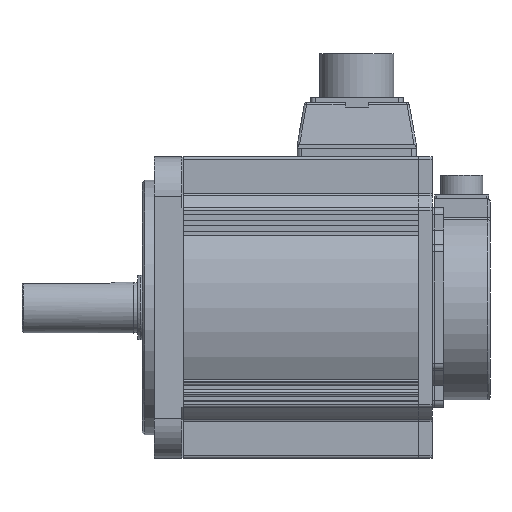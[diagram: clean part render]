
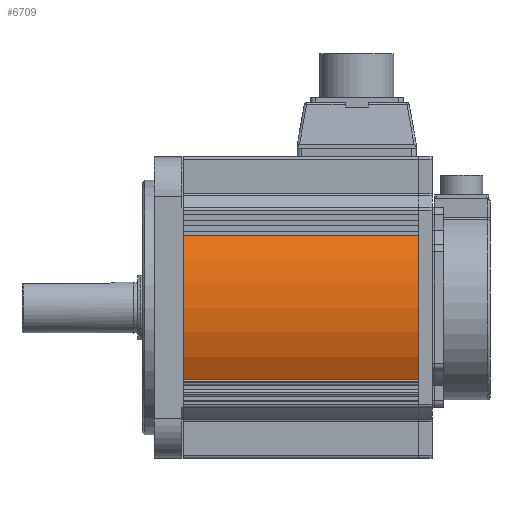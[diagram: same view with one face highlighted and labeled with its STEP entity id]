
A CAD part, front view. The second image highlights one B-rep face of the part: STEP entity #6709.
In plain terms, the highlighted cylindrical face has radius 65 mm (diameter 130 mm), a partial arc.
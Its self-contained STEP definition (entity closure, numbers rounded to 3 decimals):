
#193 = ORIENTED_EDGE ( 'NONE', *, *, #12363, .T. ) ;
#249 = ORIENTED_EDGE ( 'NONE', *, *, #12451, .F. ) ;
#1944 = VERTEX_POINT ( 'NONE', #10634 ) ;
#2827 = AXIS2_PLACEMENT_3D ( 'NONE', #9149, #9118, #9101 ) ;
#3344 = EDGE_LOOP ( 'NONE', ( #193, #249, #6283, #7422 ) ) ;
#4768 = CYLINDRICAL_SURFACE ( 'NONE', #12276, 65. ) ;
#5629 = CARTESIAN_POINT ( 'NONE',  ( 171., -57.131, 31. ) ) ;
#6151 = CIRCLE ( 'NONE', #9878, 65. ) ;
#6283 = ORIENTED_EDGE ( 'NONE', *, *, #12498, .F. ) ;
#6653 = LINE ( 'NONE', #11159, #6977 ) ;
#6709 = ADVANCED_FACE ( 'NONE', ( #10366 ), #4768, .T. ) ;
#6828 = DIRECTION ( 'NONE',  ( 0., 0., -1. ) ) ;
#6840 = DIRECTION ( 'NONE',  ( 1., 0., 0. ) ) ;
#6875 = CARTESIAN_POINT ( 'NONE',  ( 171., 0., 0. ) ) ;
#6977 = VECTOR ( 'NONE', #11168, 1000. ) ;
#6980 = VERTEX_POINT ( 'NONE', #13236 ) ;
#7422 = ORIENTED_EDGE ( 'NONE', *, *, #12241, .T. ) ;
#7802 = CIRCLE ( 'NONE', #2827, 65. ) ;
#7879 = DIRECTION ( 'NONE',  ( -1., 0., 0. ) ) ;
#7895 = CARTESIAN_POINT ( 'NONE',  ( 171., -57.131, -31. ) ) ;
#7964 = VERTEX_POINT ( 'NONE', #5629 ) ;
#8584 = CARTESIAN_POINT ( 'NONE',  ( 171., -57.131, -31. ) ) ;
#8959 = VECTOR ( 'NONE', #7879, 1000. ) ;
#9101 = DIRECTION ( 'NONE',  ( 0., 0., -1. ) ) ;
#9118 = DIRECTION ( 'NONE',  ( 1., 0., 0. ) ) ;
#9149 = CARTESIAN_POINT ( 'NONE',  ( 69.5, 0., 0. ) ) ;
#9162 = VERTEX_POINT ( 'NONE', #8584 ) ;
#9291 = LINE ( 'NONE', #7895, #8959 ) ;
#9878 = AXIS2_PLACEMENT_3D ( 'NONE', #6875, #6840, #6828 ) ;
#9954 = DIRECTION ( 'NONE',  ( -1., 0., 0. ) ) ;
#10261 = DIRECTION ( 'NONE',  ( 0., 0., 1. ) ) ;
#10366 = FACE_OUTER_BOUND ( 'NONE', #3344, .T. ) ;
#10634 = CARTESIAN_POINT ( 'NONE',  ( 69.5, -57.131, 31. ) ) ;
#10746 = CARTESIAN_POINT ( 'NONE',  ( 171., 0., 0. ) ) ;
#11159 = CARTESIAN_POINT ( 'NONE',  ( 171., -57.131, 31. ) ) ;
#11168 = DIRECTION ( 'NONE',  ( -1., 0., 0. ) ) ;
#12241 = EDGE_CURVE ( 'NONE', #7964, #1944, #6653, .T. ) ;
#12276 = AXIS2_PLACEMENT_3D ( 'NONE', #10746, #9954, #10261 ) ;
#12363 = EDGE_CURVE ( 'NONE', #1944, #6980, #7802, .T. ) ;
#12451 = EDGE_CURVE ( 'NONE', #9162, #6980, #9291, .T. ) ;
#12498 = EDGE_CURVE ( 'NONE', #7964, #9162, #6151, .T. ) ;
#13236 = CARTESIAN_POINT ( 'NONE',  ( 69.5, -57.131, -31. ) ) ;
